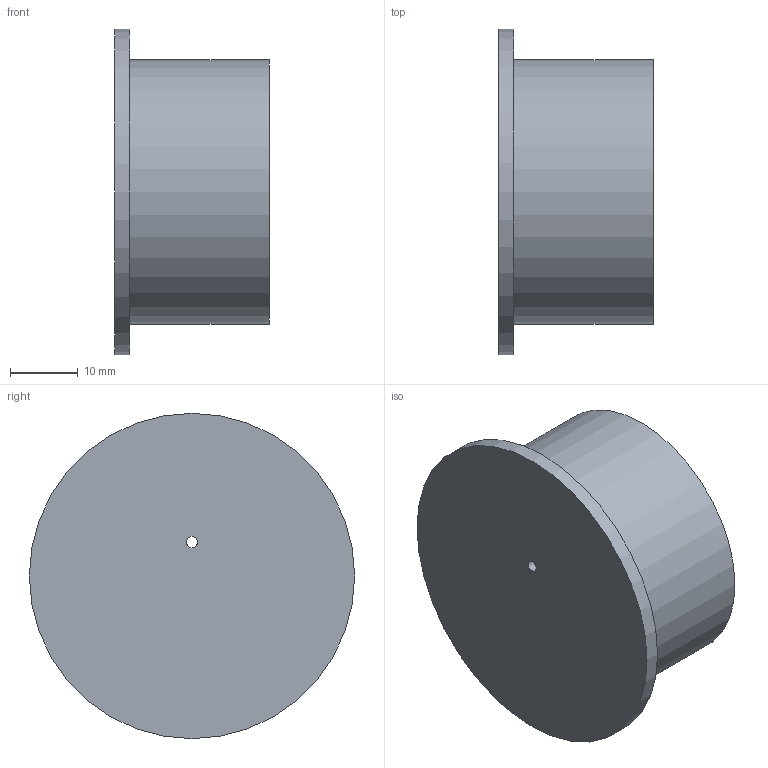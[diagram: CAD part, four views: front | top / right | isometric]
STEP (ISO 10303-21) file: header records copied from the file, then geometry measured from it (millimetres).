
FILE_DESCRIPTION( ('This file contains a STEP AP42 implementation' ,'as created by ZW3D STEP Interface translator.') ,'2;1' );
FILE_NAME( 'OGW-40.stp' ,'26 519. 74054', (''), ('ZWCAD Software Co.'), 'Version 1.0', 'ZW3D to STEP translator', '' );
FILE_SCHEMA(('AP242_MANAGED_MODEL_BASED_3D_ENGINEERING_MIM_LF { 1 0 10303 442 1 1 4 }'));
Length unit declared in the file: millimetre
Products named in the file (1): 0
Bounding box: 22.8 x 48 x 48 mm (x, y, z)
Volume: 5348.2 mm3; surface area: 8947.7 mm2
Topology: 1 solids, 1 shells, 8 faces, 12 edges, 8 vertices
Faces by surface type: cylinder 4, plane 4
Full cylindrical faces by diameter (mm): 1.7 x1, 38 x1, 39.1 x1, 48 x1
Entity records: 216 total; most frequent: DIRECTION 38, CARTESIAN_POINT 29, ORIENTED_EDGE 24, AXIS2_PLACEMENT_3D 17, EDGE_CURVE 12, EDGE_LOOP 12, VERTEX_POINT 8, CIRCLE 8
